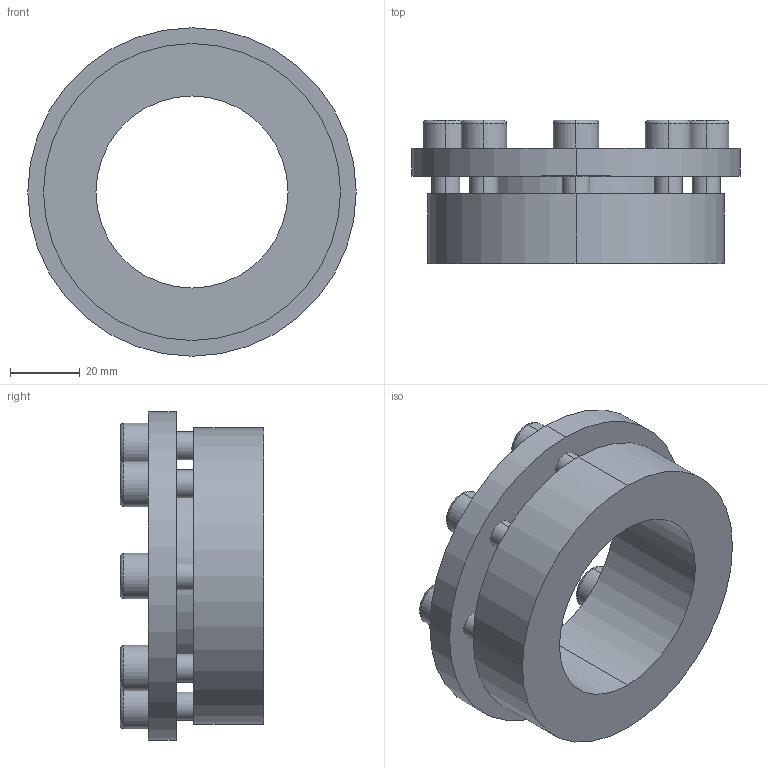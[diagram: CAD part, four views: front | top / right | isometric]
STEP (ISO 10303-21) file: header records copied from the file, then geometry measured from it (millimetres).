
FILE_DESCRIPTION (( 'STEP AP203' ), '1' );
FILE_NAME ('PL-H6 55-85.STEP', '2021-10-23T01:37:05', ( '' ), ( '' ), 'SwSTEP 2.0', 'SolidWorks 2018', '' );
FILE_SCHEMA (( 'CONFIG_CONTROL_DESIGN' ));
Length unit declared in the file: millimetre
Products named in the file (1): PL-H6 55-85
Bounding box: 94 x 41 x 94 mm (x, y, z)
Volume: 114658.3 mm3; surface area: 32331.5 mm2
Topology: 1 solids, 1 shells, 124 faces, 296 edges, 192 vertices
Faces by surface type: plane 68, cylinder 40, torus 16
Entity records: 3717 total; most frequent: DIRECTION 658, CARTESIAN_POINT 613, ORIENTED_EDGE 592, EDGE_CURVE 296, AXIS2_PLACEMENT_3D 237, VERTEX_POINT 192, VECTOR 184, LINE 184
